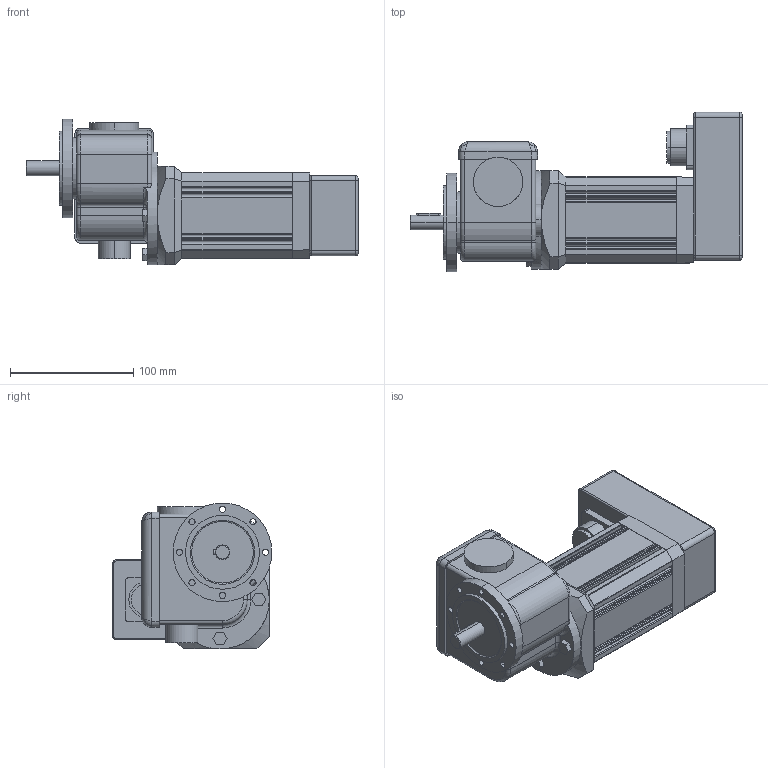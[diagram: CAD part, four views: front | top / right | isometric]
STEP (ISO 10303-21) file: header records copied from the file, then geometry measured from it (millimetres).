
FILE_DESCRIPTION(('OneSpaceDesigner STEP Export'),'2;1');
FILE_NAME('UECG303TH_GF239-10_Q.stp','2008-06-25T12:49:51',(''),(''),'OneSpace Designer STEP processor (Jan. 2003) for AP214(CD)(Solid Model)','OneSpace Designer 12.01D 09-Jul-2004 (C) CoCreate Software GmbH','');
FILE_SCHEMA(('AUTOMOTIVE_DESIGN_CC2 {1 2 10303 214 -1 1 5 1}'));
Length unit declared in the file: millimetre
Products named in the file (2): UECG303TH_GF239-10_Q
Assembly tree (1 placements, depth 2):
  UECG303TH_GF239-10_Q
    UECG303TH_GF239-10_Q
Bounding box: 269.5 x 129.5 x 118.5 mm (x, y, z)
Volume: 1512017.7 mm3; surface area: 123742.3 mm2
Topology: 1 solids, 1 shells, 351 faces, 889 edges, 553 vertices
Faces by surface type: plane 167, cylinder 143, torus 22, bspline 12, cone 6, sphere 1
Entity records: 12528 total; most frequent: CARTESIAN_POINT 4319, ORIENTED_EDGE 1776, DIRECTION 1570, EDGE_CURVE 888, VERTEX_POINT 553, AXIS2_PLACEMENT_3D 541, VECTOR 488, LINE 488
